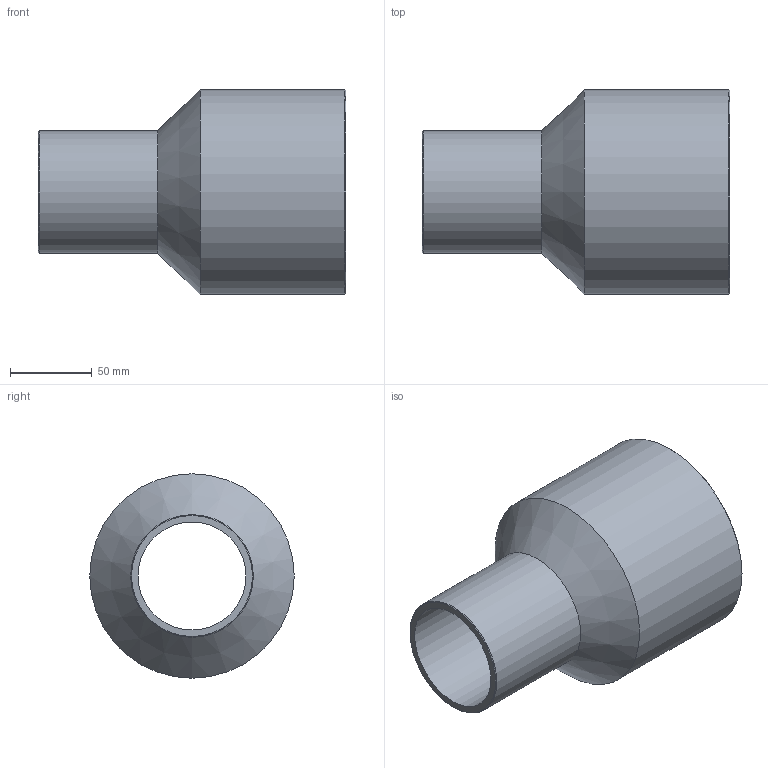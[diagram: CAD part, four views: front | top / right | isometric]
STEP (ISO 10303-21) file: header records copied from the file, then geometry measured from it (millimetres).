
FILE_DESCRIPTION(/* description */ ('Unknown'),/* implementation_level */ '2;1');
FILE_NAME(/* name */ 'RP125075B',/* time_stamp */ '2021-09-17T11:22:47+02:00',/* author */ ('Unknown'),/* organization */ ('Unknown'),/* preprocessor_version */ 'ST-DEVELOPER v16.7',/* originating_system */ 'Solid Edge',/* authorisation */ 'Unknown');
FILE_SCHEMA (('AUTOMOTIVE_DESIGN {1 0 10303 214 3 1 1}'));
Length unit declared in the file: millimetre
Products named in the file (1): RP125075B
Bounding box: 188 x 125 x 125 mm (x, y, z)
Volume: 390930.1 mm3; surface area: 121612.5 mm2
Topology: 1 solids, 1 shells, 10 faces, 19 edges, 11 vertices
Faces by surface type: cylinder 4, cone 4, plane 2
Full cylindrical faces by diameter (mm): 66 x1, 75 x1, 110.2 x1, 125 x1
Entity records: 238 total; most frequent: DIRECTION 42, CARTESIAN_POINT 31, AXIS2_PLACEMENT_3D 21, ORIENTED_EDGE 20, EDGE_LOOP 20, FACE_BOUND 20, EDGE_CURVE 10, VERTEX_POINT 10
